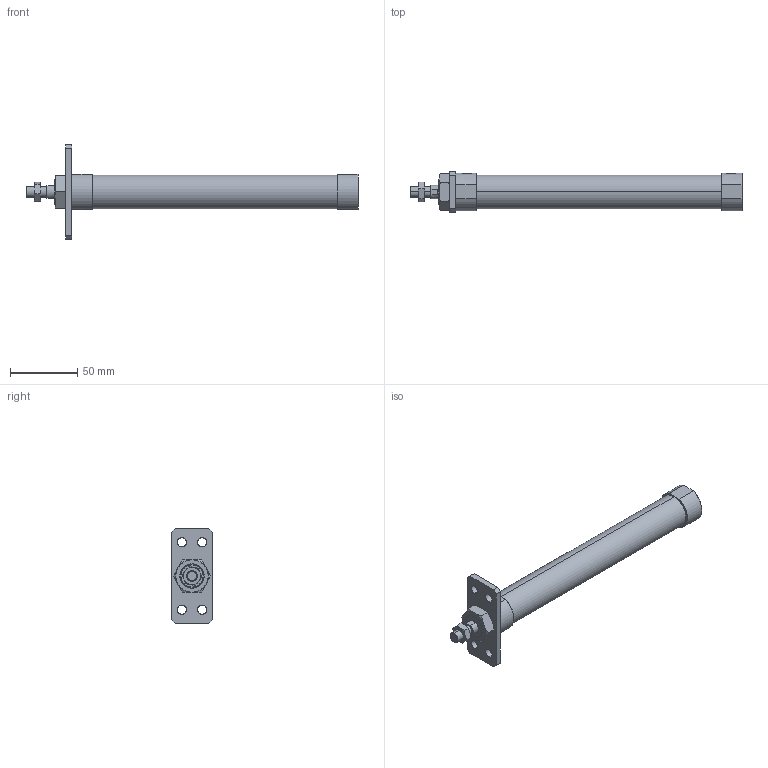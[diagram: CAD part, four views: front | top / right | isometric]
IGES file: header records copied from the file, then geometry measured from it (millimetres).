
Start section: SolidWorks IGES file using analytic representation for surfaces
Global section: file name: C:\Users\Toshiba\Desktop\JGND2-20-150-A.IGS; native system: SolidWorks 2014; preprocessor: SolidWorks 2014; author: Toshiba; date: 160804.103259; units: millimetre
Bounding box: 246 x 30 x 70 mm (x, y, z)
Surface area: 27344 mm2 (no closed solid volume)
Topology: 0 solids, 0 shells, 104 faces, 1876 edges, 1876 vertices
Faces by surface type: bspline 68, revolution 36
